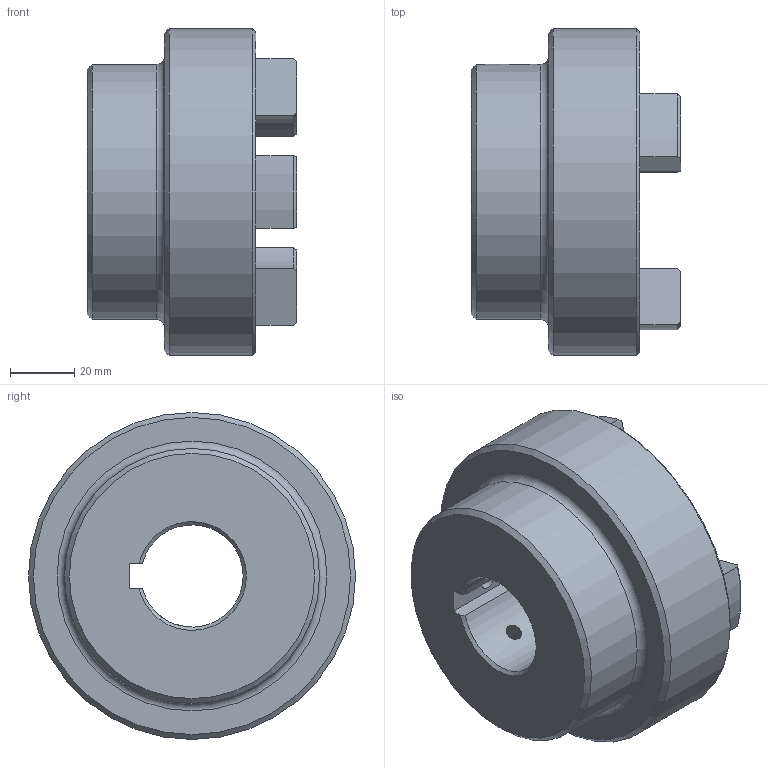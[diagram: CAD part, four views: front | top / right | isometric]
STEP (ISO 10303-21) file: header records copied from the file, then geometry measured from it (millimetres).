
FILE_DESCRIPTION (( 'STEP AP203' ), '1' );
FILE_NAME ('RC4.step', '2024-07-24T17:40:19', ( 'Adlan' ), ( '' ), 'SwSTEP 2.0', 'SolidWorks 2013', '' );
FILE_SCHEMA (( 'CONFIG_CONTROL_DESIGN' ));
Length unit declared in the file: inch
Products named in the file (1): RC4
Bounding box: 65.02 x 101.6 x 101.6 mm (x, y, z)
Volume: 248683.2 mm3; surface area: 41299.8 mm2
Topology: 1 solids, 1 shells, 67 faces, 168 edges, 105 vertices
Faces by surface type: cylinder 26, plane 16, torus 13, cone 12
Full cylindrical faces by diameter (mm): 5.105 x2, 79.248 x1, 101.6 x1
Entity records: 2243 total; most frequent: CARTESIAN_POINT 568, DIRECTION 354, ORIENTED_EDGE 310, EDGE_CURVE 155, AXIS2_PLACEMENT_3D 142, VERTEX_POINT 102, EDGE_LOOP 85, CIRCLE 74
